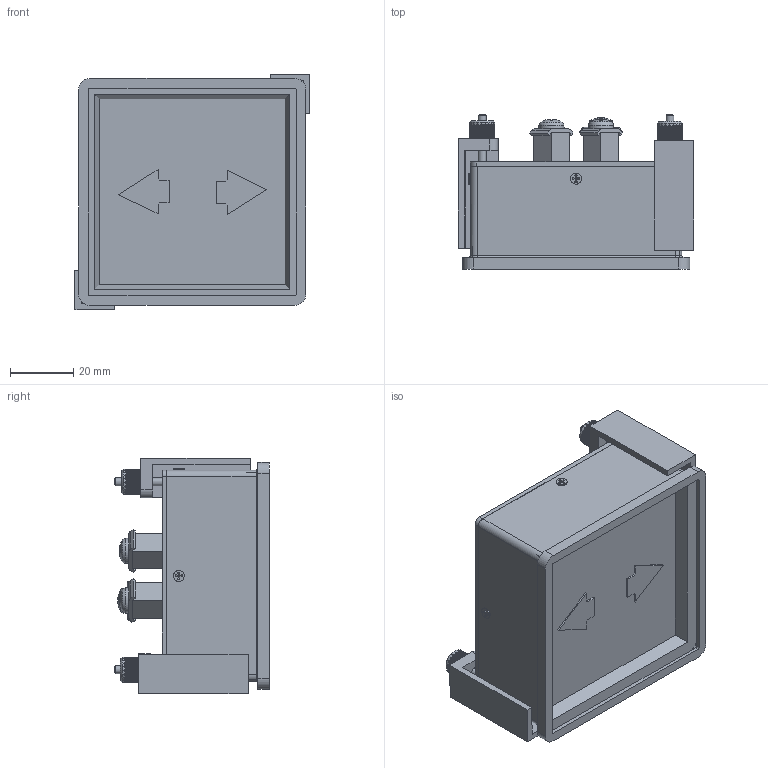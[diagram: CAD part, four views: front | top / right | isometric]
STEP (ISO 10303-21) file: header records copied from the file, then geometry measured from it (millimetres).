
FILE_DESCRIPTION(/* description */ (''),/* implementation_level */ '2;1');
FILE_NAME(/* name */ 'T:\EngMecanica\DESENHOS INVENTOR\Catalogo 2019\Arquivos STEP\SF72.stp',/* time_stamp */ '2024-11-25T17:40:23-03:00',/* author */ ('jose.luis'),/* organization */ (''),/* preprocessor_version */ 'ST-DEVELOPER v18.1',/* originating_system */ 'Autodesk Inventor 2021',/* authorisation */ '');
FILE_SCHEMA (('AUTOMOTIVE_DESIGN { 1 0 10303 214 3 1 1 }'));
Length unit declared in the file: millimetre
Products named in the file (16): SF72; Base 72; Caixa 1; Moldura; Escala SF72; Seta vermelha; Seta verde; Borne; DIN 976-1 - M2,5 x 20 - A; DIN 976-1 - M2,5 x 20 - A_1; Trava do painel; Porca redonda recartilhada; AS 1427 - M2 x 4; AS 1474 - M2; arruela quadrada; EN ISO 7045 - M4 x 5 - 4.8 - Z
Assembly tree (29 placements, depth 2):
  SF72
    Base 72
    Caixa 1
    Moldura
    Escala SF72
    Seta vermelha
    Seta verde
    Borne  x3
    DIN 976-1 - M2,5 x 20 - A
    DIN 976-1 - M2,5 x 20 - A_1
    Trava do painel  x2
    Porca redonda recartilhada  x2
    AS 1427 - M2 x 4  x4
    AS 1474 - M2  x4
    arruela quadrada  x3
    EN ISO 7045 - M4 x 5 - 4.8 - Z  x3
Bounding box: 74.67 x 49 x 74.7 mm (x, y, z)
Volume: 42801.8 mm3; surface area: 51644.2 mm2
Topology: 29 solids, 33 shells, 2073 faces, 5086 edges, 3367 vertices
Faces by surface type: plane 1782, cone 123, cylinder 122, torus 43, sphere 3
Full cylindrical faces by diameter (mm): 1.567 x4, 1.755 x4, 2 x7, 2.106 x4, 2.382 x4, 2.5 x4, 3.127 x5, 3.242 x3, 3.5 x12, 3.621 x3, 3.8 x3, 4 x7, 4.467 x1, 6 x2, 8 x2
Entity records: 33623 total; most frequent: CARTESIAN_POINT 6222, DIRECTION 5707, ORIENTED_EDGE 5376, EDGE_CURVE 2688, AXIS2_PLACEMENT_3D 1968, VERTEX_POINT 1783, LINE 1771, VECTOR 1771
